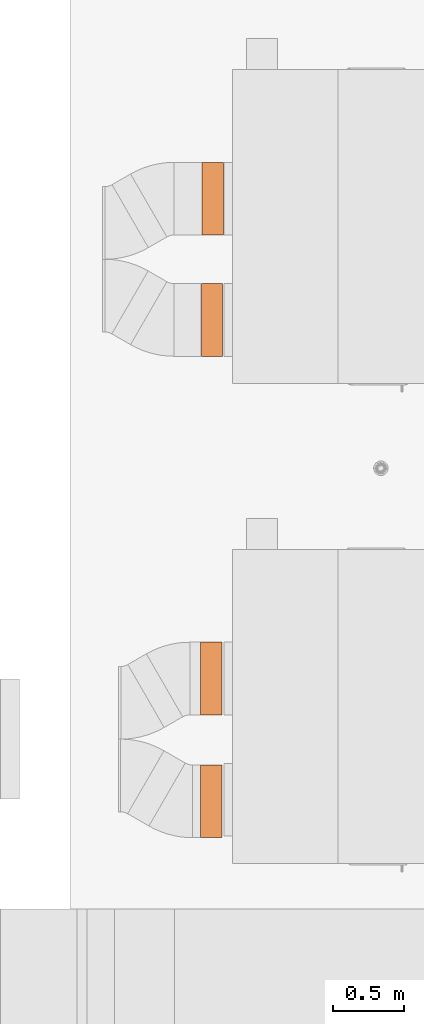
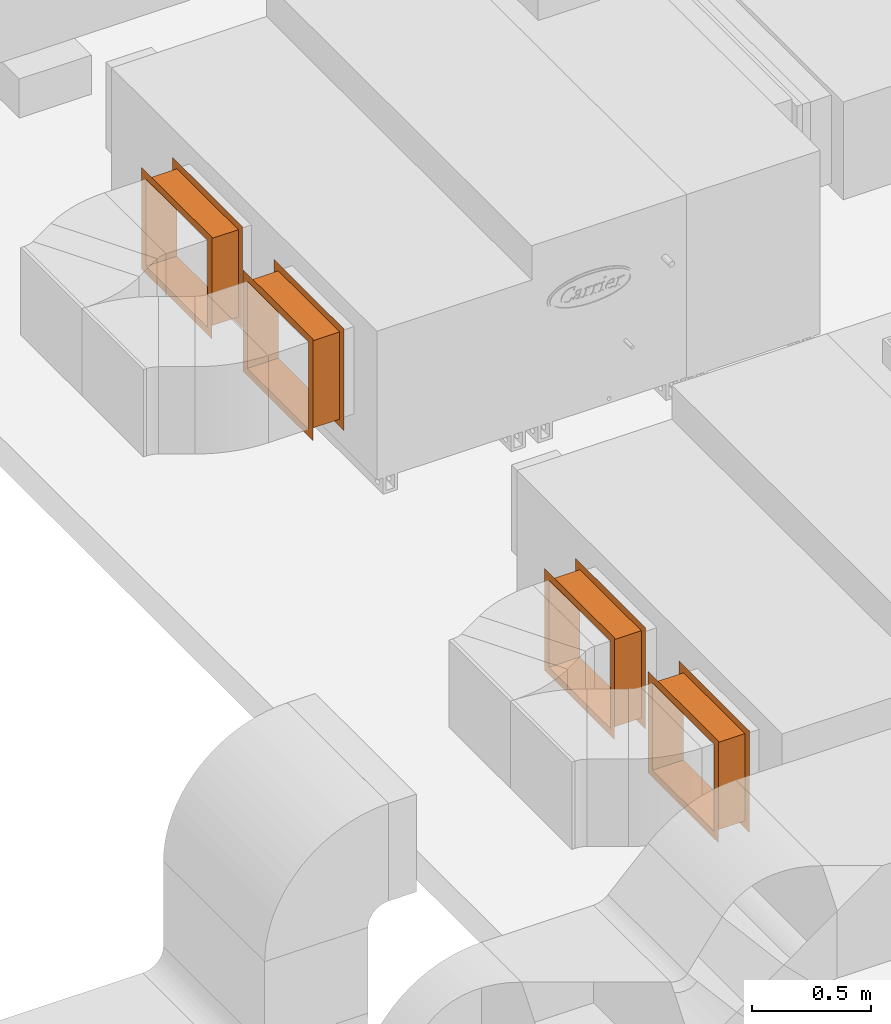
# One storey, part 10 of 10: 4 proxies.
"""IFC2X3 building model written with IfcOpenShell, lengths in millimetres."""

from ifc_helpers import new_model, entity, si_unit, converted_unit, derived_unit, direction, frame, origin, place, context, subcontext, project, spatial, face_set, surface_model, source, transform, mapped, material, type_object, type_shapes, element, save


model = new_model("IFC2X3")

# Units and contexts
model_context = context("Model", 3, precision=0.01, world=origin(), true_north=direction((6.123233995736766e-17, 1.0)))
body_context = subcontext(model_context, "Body", "Model", "MODEL_VIEW")
ifc_project = project(units=[si_unit("LENGTHUNIT", "METRE", prefix="MILLI"), converted_unit("PLANEANGLEUNIT", "DEGREE", entity("IfcPlaneAngleMeasure", 0.017453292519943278), si_unit("PLANEANGLEUNIT", "RADIAN"), dimensions=[0, 0, 0, 0, 0, 0, 0]), si_unit("AREAUNIT", "SQUARE_METRE"), derived_unit("THERMALTRANSMITTANCEUNIT", [(si_unit("MASSUNIT", "GRAM", prefix="KILO"), 1), (si_unit("THERMODYNAMICTEMPERATUREUNIT", "KELVIN"), -1), (si_unit("TIMEUNIT", "SECOND"), -3)])], contexts=[model_context])

# Site, building, storey
site_placement = place(None, origin())
site = spatial("IfcSite", under=ifc_project, at=site_placement, Name="Default", CompositionType="ELEMENT")
building_placement = place(site_placement, origin())
building = spatial("IfcBuilding", under=site, at=building_placement, Name="Praça Pedro II, 1301 - Centro (Sul), Teresina - PI, 64001-100", CompositionType="ELEMENT")
storey_placement = place(building_placement, frame((0.0, 0.0, 9040.0)))
storey = spatial("IfcBuildingStorey", under=building, at=storey_placement, Name="LAJE TÉCNICA", CompositionType="ELEMENT", Elevation=9040.0)

# Proxies
ifc_material = material(Name="<Unnamed>")
building_element_proxy_type_1 = type_object("IfcBuildingElementProxyType", Name="Canvas Connection:Canvas Connection", PredefinedType="NOTDEFINED", material=ifc_material)
shared_shape_1 = source(origin(), body_context, "Body", "SurfaceModel", [
    surface_model("IfcFaceBasedSurfaceModel", [(0.0, -257.49999833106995, 223.50000243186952), (150.0000011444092, -257.49999833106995, 223.50000243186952), (150.0000011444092, 257.49999833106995, 223.50000243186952), (0.0, 257.49999833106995, 223.50000243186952), (150.0000011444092, 257.49999833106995, -223.50000243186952), (0.0, 257.49999833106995, -223.50000243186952), (150.0000011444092, -257.49999833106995, -223.50000243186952), (0.0, -257.49999833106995, -223.50000243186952), (0.0010000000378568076, -294.4999927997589, -260.4999969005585), (0.0010000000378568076, -294.4999927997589, 260.4999969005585), (0.0010000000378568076, 294.4999927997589, 260.4999969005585), (0.0010000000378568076, 294.4999927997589, -260.4999969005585), (149.9989928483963, 294.4999927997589, -260.4999969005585), (149.9989928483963, 294.4999927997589, 260.4999969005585), (149.9989928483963, -294.4999927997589, 260.4999969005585), (149.9989928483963, -294.4999927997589, -260.4999969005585)], [face_set([[[0, 1, 2]], [[2, 3, 0]], [[3, 2, 4]], [[4, 5, 3]], [[5, 4, 6]], [[6, 7, 5]], [[7, 6, 1]], [[1, 0, 7]], [[8, 7, 0]], [[0, 9, 8]], [[9, 0, 3]], [[3, 10, 9]], [[10, 3, 5]], [[5, 11, 10]], [[11, 5, 7]], [[7, 8, 11]], [[12, 4, 2]], [[2, 13, 12]], [[13, 2, 1]], [[1, 14, 13]], [[14, 1, 6]], [[6, 15, 14]], [[15, 6, 4]], [[4, 12, 15]]])]),
])
type_shapes(building_element_proxy_type_1, [shared_shape_1])
proxy_1_placement = place(storey_placement, frame((36140.5411747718, -61233.2830641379, 1606.0558825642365), z_axis=(0.0, 0.0, -1.0), x_axis=(1.0, 0.0, 0.0)))
element("IfcBuildingElementProxy", 1, at=proxy_1_placement, inside=storey, type_object=building_element_proxy_type_1, material=ifc_material, Name="Canvas Connection:Padrão", ObjectType="Canvas Connection:Padrão", context=body_context, shape_type="MappedRepresentation", body=[
    mapped(shared_shape_1, transform((0.0, 0.0, 0.0), scale=1.0)),
])
building_element_proxy_type_2 = type_object("IfcBuildingElementProxyType", Name="Canvas Connection:Canvas Connection", PredefinedType="NOTDEFINED", material=ifc_material)
shared_shape_2 = source(origin(), body_context, "Body", "SurfaceModel", [
    surface_model("IfcFaceBasedSurfaceModel", [(0.0, -257.49999833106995, 223.50000243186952), (150.0000011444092, -257.49999833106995, 223.50000243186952), (150.0000011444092, 257.49999833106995, 223.50000243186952), (0.0, 257.49999833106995, 223.50000243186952), (150.0000011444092, 257.49999833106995, -223.50000243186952), (0.0, 257.49999833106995, -223.50000243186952), (150.0000011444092, -257.49999833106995, -223.50000243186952), (0.0, -257.49999833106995, -223.50000243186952), (0.0010000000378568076, -294.4999927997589, -260.4999969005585), (0.0010000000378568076, -294.4999927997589, 260.4999969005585), (0.0010000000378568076, 294.4999927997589, 260.4999969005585), (0.0010000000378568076, 294.4999927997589, -260.4999969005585), (149.9989928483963, 294.4999927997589, -260.4999969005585), (149.9989928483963, 294.4999927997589, 260.4999969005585), (149.9989928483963, -294.4999927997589, 260.4999969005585), (149.9989928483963, -294.4999927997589, -260.4999969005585)], [face_set([[[0, 1, 2]], [[2, 3, 0]], [[3, 2, 4]], [[4, 5, 3]], [[5, 4, 6]], [[6, 7, 5]], [[7, 6, 1]], [[1, 0, 7]], [[8, 7, 0]], [[0, 9, 8]], [[9, 0, 3]], [[3, 10, 9]], [[10, 3, 5]], [[5, 11, 10]], [[11, 5, 7]], [[7, 8, 11]], [[12, 4, 2]], [[2, 13, 12]], [[13, 2, 1]], [[1, 14, 13]], [[14, 1, 6]], [[6, 15, 14]], [[15, 6, 4]], [[4, 12, 15]]])]),
])
type_shapes(building_element_proxy_type_2, [shared_shape_2])
proxy_2_placement = place(storey_placement, frame((36145.76453472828, -60374.2830641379, 1606.0558825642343)))
element("IfcBuildingElementProxy", 2, at=proxy_2_placement, inside=storey, type_object=building_element_proxy_type_2, material=ifc_material, Name="Canvas Connection:Padrão", ObjectType="Canvas Connection:Padrão", context=body_context, shape_type="MappedRepresentation", body=[
    mapped(shared_shape_2, transform((0.0, 0.0, 0.0), scale=1.0)),
])
building_element_proxy_type_3 = type_object("IfcBuildingElementProxyType", Name="Canvas Connection:Canvas Connection", PredefinedType="NOTDEFINED", material=ifc_material)
shared_shape_3 = source(origin(), body_context, "Body", "SurfaceModel", [
    surface_model("IfcFaceBasedSurfaceModel", [(0.0, -257.49999833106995, 223.50000243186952), (150.0000011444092, -257.49999833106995, 223.50000243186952), (150.0000011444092, 257.49999833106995, 223.50000243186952), (0.0, 257.49999833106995, 223.50000243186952), (150.0000011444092, 257.49999833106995, -223.50000243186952), (0.0, 257.49999833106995, -223.50000243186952), (150.0000011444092, -257.49999833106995, -223.50000243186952), (0.0, -257.49999833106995, -223.50000243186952), (0.0010000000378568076, -294.4999927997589, -260.4999969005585), (0.0010000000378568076, -294.4999927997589, 260.4999969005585), (0.0010000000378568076, 294.4999927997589, 260.4999969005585), (0.0010000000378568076, 294.4999927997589, -260.4999969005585), (149.9989928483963, 294.4999927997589, -260.4999969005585), (149.9989928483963, 294.4999927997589, 260.4999969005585), (149.9989928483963, -294.4999927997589, 260.4999969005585), (149.9989928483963, -294.4999927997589, -260.4999969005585)], [face_set([[[0, 1, 2]], [[2, 3, 0]], [[3, 2, 4]], [[4, 5, 3]], [[5, 4, 6]], [[6, 7, 5]], [[7, 6, 1]], [[1, 0, 7]], [[8, 7, 0]], [[0, 9, 8]], [[9, 0, 3]], [[3, 10, 9]], [[10, 3, 5]], [[5, 11, 10]], [[11, 5, 7]], [[7, 8, 11]], [[12, 4, 2]], [[2, 13, 12]], [[13, 2, 1]], [[1, 14, 13]], [[14, 1, 6]], [[6, 15, 14]], [[15, 6, 4]], [[4, 12, 15]]])]),
])
type_shapes(building_element_proxy_type_3, [shared_shape_3])
proxy_3_placement = place(storey_placement, frame((36134.10048618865, -63774.28306413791, 1619.0482010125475), z_axis=(0.0, 0.0, -1.0), x_axis=(1.0, 0.0, 0.0)))
element("IfcBuildingElementProxy", 3, at=proxy_3_placement, inside=storey, type_object=building_element_proxy_type_3, material=ifc_material, Name="Canvas Connection:Padrão", ObjectType="Canvas Connection:Padrão", context=body_context, shape_type="MappedRepresentation", body=[
    mapped(shared_shape_3, transform((0.0, 0.0, 0.0), scale=1.0)),
])
building_element_proxy_type_4 = type_object("IfcBuildingElementProxyType", Name="Canvas Connection:Canvas Connection", PredefinedType="NOTDEFINED", material=ifc_material)
shared_shape_4 = source(origin(), body_context, "Body", "SurfaceModel", [
    surface_model("IfcFaceBasedSurfaceModel", [(0.0, -257.49999833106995, 223.50000243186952), (150.0000011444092, -257.49999833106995, 223.50000243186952), (150.0000011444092, 257.49999833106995, 223.50000243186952), (0.0, 257.49999833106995, 223.50000243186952), (150.0000011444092, 257.49999833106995, -223.50000243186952), (0.0, 257.49999833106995, -223.50000243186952), (150.0000011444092, -257.49999833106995, -223.50000243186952), (0.0, -257.49999833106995, -223.50000243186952), (0.0010000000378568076, -294.4999927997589, -260.4999969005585), (0.0010000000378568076, -294.4999927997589, 260.4999969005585), (0.0010000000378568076, 294.4999927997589, 260.4999969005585), (0.0010000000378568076, 294.4999927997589, -260.4999969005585), (149.9989928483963, 294.4999927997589, -260.4999969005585), (149.9989928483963, 294.4999927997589, 260.4999969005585), (149.9989928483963, -294.4999927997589, 260.4999969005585), (149.9989928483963, -294.4999927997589, -260.4999969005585)], [face_set([[[0, 1, 2]], [[2, 3, 0]], [[3, 2, 4]], [[4, 5, 3]], [[5, 4, 6]], [[6, 7, 5]], [[7, 6, 1]], [[1, 0, 7]], [[8, 7, 0]], [[0, 9, 8]], [[9, 0, 3]], [[3, 10, 9]], [[10, 3, 5]], [[5, 11, 10]], [[11, 5, 7]], [[7, 8, 11]], [[12, 4, 2]], [[2, 13, 12]], [[13, 2, 1]], [[1, 14, 13]], [[14, 1, 6]], [[6, 15, 14]], [[15, 6, 4]], [[4, 12, 15]]])]),
])
type_shapes(building_element_proxy_type_4, [shared_shape_4])
proxy_4_placement = place(storey_placement, frame((36134.10048618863, -64643.88341228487, 1619.0482010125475), z_axis=(0.0, 0.0, -1.0), x_axis=(1.0, 0.0, 0.0)))
element("IfcBuildingElementProxy", 4, at=proxy_4_placement, inside=storey, type_object=building_element_proxy_type_4, material=ifc_material, Name="Canvas Connection:Padrão", ObjectType="Canvas Connection:Padrão", context=body_context, shape_type="MappedRepresentation", body=[
    mapped(shared_shape_4, transform((0.0, 0.0, 0.0), scale=1.0)),
])

save(model, "model.ifc")
